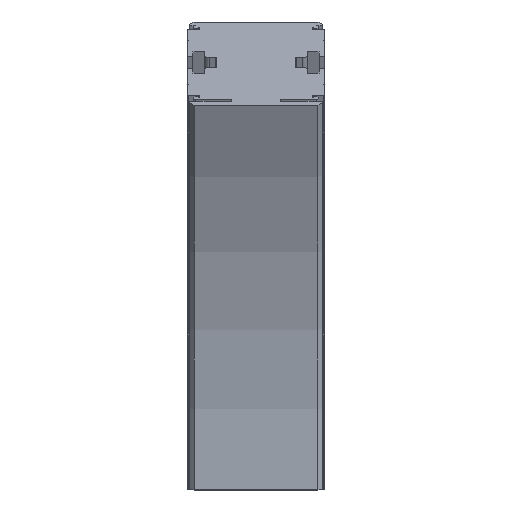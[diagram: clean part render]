
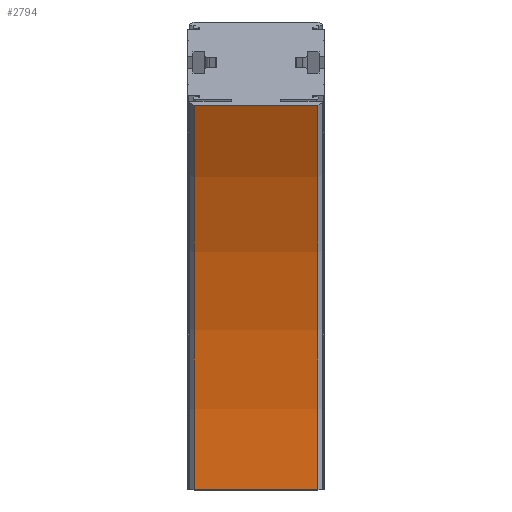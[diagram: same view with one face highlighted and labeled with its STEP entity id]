
A CAD part, top view. The second image highlights one B-rep face of the part: STEP entity #2794.
In plain terms, the highlighted cylindrical face has radius 360 mm (diameter 720 mm), a partial arc.
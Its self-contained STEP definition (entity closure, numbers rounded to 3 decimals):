
#88=CYLINDRICAL_SURFACE('',#3073,360.);
#298=CIRCLE('',#3072,360.);
#299=CIRCLE('',#3074,360.);
#463=FACE_OUTER_BOUND('',#617,.T.);
#617=EDGE_LOOP('',(#2255,#2256,#2257,#2258));
#805=LINE('',#9301,#1011);
#806=LINE('',#9303,#1012);
#1011=VECTOR('',#3758,10.);
#1012=VECTOR('',#3759,10.);
#1277=VERTEX_POINT('',#9294);
#1278=VERTEX_POINT('',#9296);
#1279=VERTEX_POINT('',#9300);
#1280=VERTEX_POINT('',#9302);
#1665=EDGE_CURVE('',#1277,#1278,#298,.T.);
#1666=EDGE_CURVE('',#1279,#1277,#805,.T.);
#1667=EDGE_CURVE('',#1280,#1278,#806,.T.);
#1668=EDGE_CURVE('',#1279,#1280,#299,.T.);
#2255=ORIENTED_EDGE('',*,*,#1666,.T.);
#2256=ORIENTED_EDGE('',*,*,#1665,.T.);
#2257=ORIENTED_EDGE('',*,*,#1667,.F.);
#2258=ORIENTED_EDGE('',*,*,#1668,.F.);
#2794=ADVANCED_FACE('',(#463),#88,.F.);
#3072=AXIS2_PLACEMENT_3D('',#9298,#3754,#3755);
#3073=AXIS2_PLACEMENT_3D('',#9299,#3756,#3757);
#3074=AXIS2_PLACEMENT_3D('',#9304,#3760,#3761);
#3754=DIRECTION('center_axis',(1.,0.,0.));
#3755=DIRECTION('ref_axis',(0.,0.,-1.));
#3756=DIRECTION('center_axis',(1.,0.,0.));
#3757=DIRECTION('ref_axis',(0.,0.,-1.));
#3758=DIRECTION('',(1.,0.,0.));
#3759=DIRECTION('',(1.,0.,0.));
#3760=DIRECTION('center_axis',(1.,0.,0.));
#3761=DIRECTION('ref_axis',(0.,0.,-1.));
#9294=CARTESIAN_POINT('',(29.,0.,40.));
#9296=CARTESIAN_POINT('',(29.,180.,88.231));
#9298=CARTESIAN_POINT('Origin',(29.,0.,400.));
#9299=CARTESIAN_POINT('Origin',(-14.5,0.,400.));
#9300=CARTESIAN_POINT('',(-29.,0.,40.));
#9301=CARTESIAN_POINT('',(-29.,0.,40.));
#9302=CARTESIAN_POINT('',(-29.,180.,88.231));
#9303=CARTESIAN_POINT('',(-29.,180.,88.231));
#9304=CARTESIAN_POINT('Origin',(-29.,0.,
400.));
